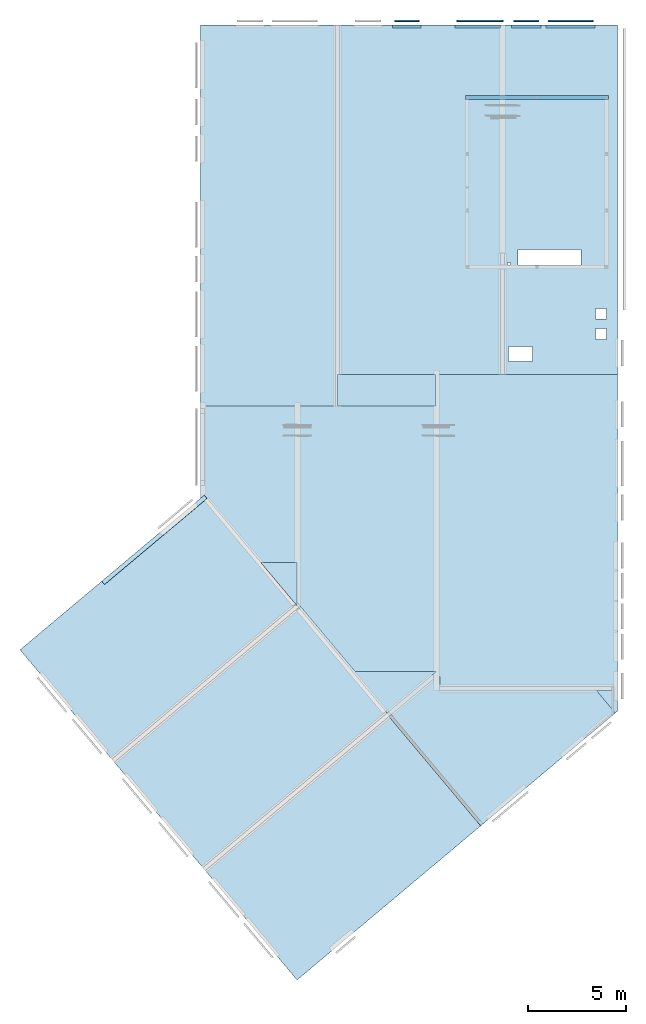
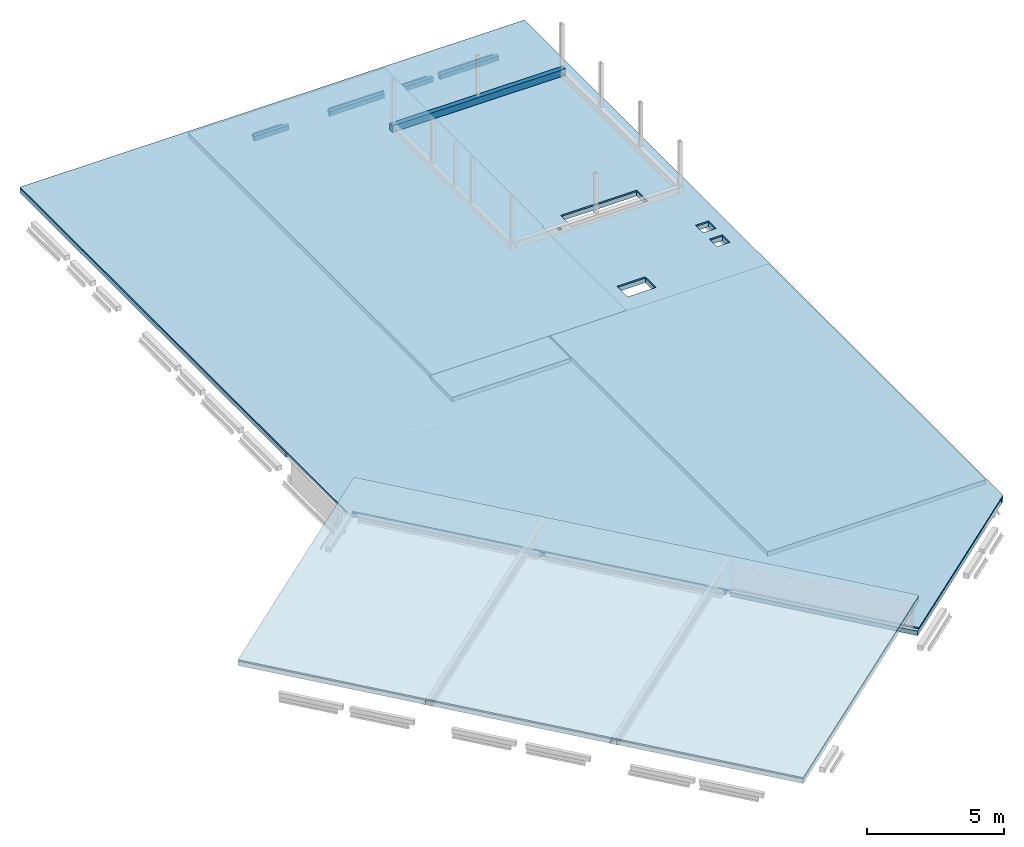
# One storey, part 6 of 9: 16 slabs, 9 beams, 10 openings.
"""IFC2X3 building model written with IfcOpenShell, lengths in millimetres."""

from ifc_helpers import new_model, entity, si_unit, converted_unit, derived_unit, direction, frame, frame_2d, origin, place, context, subcontext, project, spatial, polyline, circle_curve, parameter, trimmed, segment, composite_curve, rectangle, outline, extrude, material, layer, layer_set, layer_usage, type_object, element, save


model = new_model("IFC2X3")

# Units and contexts
model_context = context("Model", 3, precision=0.01, world=origin(), true_north=direction((6.12303176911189e-17, 1.0)))
body_context = subcontext(model_context, "Body", "Model", "MODEL_VIEW")
ifc_project = project(units=[si_unit("LENGTHUNIT", "METRE", prefix="MILLI"), si_unit("AREAUNIT", "SQUARE_METRE"), si_unit("VOLUMEUNIT", "CUBIC_METRE"), converted_unit("PLANEANGLEUNIT", "DEGREE", entity("IfcRatioMeasure", 0.0174532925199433), si_unit("PLANEANGLEUNIT", "RADIAN"), dimensions=[0, 0, 0, 0, 0, 0, 0]), si_unit("MASSUNIT", "GRAM", prefix="KILO"), derived_unit("MASSDENSITYUNIT", [(si_unit("MASSUNIT", "GRAM", prefix="KILO"), 1), (si_unit("LENGTHUNIT", "METRE"), -3)]), derived_unit("MOMENTOFINERTIAUNIT", [(si_unit("LENGTHUNIT", "METRE"), 4)]), si_unit("TIMEUNIT", "SECOND"), si_unit("FREQUENCYUNIT", "HERTZ"), si_unit("THERMODYNAMICTEMPERATUREUNIT", "DEGREE_CELSIUS"), derived_unit("THERMALTRANSMITTANCEUNIT", [(si_unit("MASSUNIT", "GRAM", prefix="KILO"), 1), (si_unit("THERMODYNAMICTEMPERATUREUNIT", "KELVIN"), -1), (si_unit("TIMEUNIT", "SECOND"), -3)]), derived_unit("VOLUMETRICFLOWRATEUNIT", [(si_unit("LENGTHUNIT", "METRE"), 3), (si_unit("TIMEUNIT", "SECOND"), -1)]), si_unit("ELECTRICCURRENTUNIT", "AMPERE"), si_unit("ELECTRICVOLTAGEUNIT", "VOLT"), si_unit("POWERUNIT", "WATT"), si_unit("FORCEUNIT", "NEWTON", prefix="KILO"), si_unit("ILLUMINANCEUNIT", "LUX"), si_unit("LUMINOUSFLUXUNIT", "LUMEN"), si_unit("LUMINOUSINTENSITYUNIT", "CANDELA"), derived_unit("USERDEFINED", [(si_unit("MASSUNIT", "GRAM", prefix="KILO"), -1), (si_unit("LENGTHUNIT", "METRE"), -2), (si_unit("TIMEUNIT", "SECOND"), 3), (si_unit("LUMINOUSFLUXUNIT", "LUMEN"), 1)]), derived_unit("LINEARVELOCITYUNIT", [(si_unit("LENGTHUNIT", "METRE"), 1), (si_unit("TIMEUNIT", "SECOND"), -1)]), si_unit("PRESSUREUNIT", "PASCAL"), derived_unit("USERDEFINED", [(si_unit("LENGTHUNIT", "METRE"), -2), (si_unit("MASSUNIT", "GRAM", prefix="KILO"), 1), (si_unit("TIMEUNIT", "SECOND"), -2)]), derived_unit("LINEARFORCEUNIT", [(si_unit("MASSUNIT", "GRAM", prefix="KILO"), 1), (si_unit("LENGTHUNIT", "METRE"), 1), (si_unit("TIMEUNIT", "SECOND"), -2), (si_unit("LENGTHUNIT", "METRE"), -1)]), derived_unit("PLANARFORCEUNIT", [(si_unit("MASSUNIT", "GRAM", prefix="KILO"), 1), (si_unit("LENGTHUNIT", "METRE"), 1), (si_unit("TIMEUNIT", "SECOND"), -2), (si_unit("LENGTHUNIT", "METRE"), -2)])], contexts=[model_context])

# Site, building, storey
site_placement = place(None, origin())
site = spatial("IfcSite", under=ifc_project, at=site_placement, Name="Default", CompositionType="ELEMENT")
building_placement = place(site_placement, origin())
building = spatial("IfcBuilding", under=site, at=building_placement, CompositionType="ELEMENT")
storey_placement = place(building_placement, frame((0.0, 0.0, 7000.0)))
storey = spatial("IfcBuildingStorey", under=building, at=storey_placement, Name="02 tweede verdieping", CompositionType="ELEMENT", Elevation=7000.00000000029)

# Beams
ifc_material_1 = material(Name="00_Staal_generiek")
beam_type_1 = type_object("IfcBeamType", Name="BERSnl_28_SF_LIB_balk hoeklijn ongelijk_gen_ISR:balk gen l150x100x10", PredefinedType="BEAM")
beam_1_placement = place(storey_placement, frame((23464.6148490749, 35679.6966282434, -60.0)))
element("IfcBeam", 1, at=beam_1_placement, inside=storey, type_object=beam_type_1, material=ifc_material_1, Name="BERSnl_28_SF_LIB_balk hoeklijn ongelijk_gen_ISR:balk gen l150x100x10", ObjectType="BERSnl_28_SF_LIB_balk hoeklijn ongelijk_gen_ISR:balk gen l150x100x10", context=body_context, shape_type="SweptSolid", body=[
    extrude(outline(composite_curve([segment(polyline([(-95.5555555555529, -37.7777777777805), (54.4444444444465, -37.7777777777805)]), True, "CONTINUOUS"), segment(polyline([(54.4444444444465, -37.7777777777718), (54.4444444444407, 62.2222222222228)]), True, "CONTINUOUS"), segment(polyline([(54.4444444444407, 62.2222222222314), (50.4444444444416, 62.2222222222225)]), True, "CONTINUOUS"), segment(trimmed(circle_curve(frame_2d((50.4444444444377, 56.2222222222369), x_axis=(0.0, 1.0)), 5.99999999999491), [parameter(0.0)], [parameter(90.0000000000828)], True, "PARAMETER"), True, "CONTINUOUS"), segment(polyline([(44.4444444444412, 56.2222222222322), (44.4444444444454, -15.7777777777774)]), True, "CONTINUOUS"), segment(trimmed(circle_curve(frame_2d((32.4444444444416, -15.7777777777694), x_axis=(1.0, 0.0)), 12.0000000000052), [parameter(270.000000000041)], [parameter(0.0)], True, "PARAMETER"), False, "CONTINUOUS"), segment(polyline([(32.4444444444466, -27.7777777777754), (-89.5555555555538, -27.7777777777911)]), True, "CONTINUOUS"), segment(trimmed(circle_curve(frame_2d((-89.5555555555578, -33.7777777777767), x_axis=(0.0, 1.0)), 5.99999999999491), [parameter(0.0)], [parameter(90.0000000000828)], True, "PARAMETER"), True, "CONTINUOUS"), segment(polyline([(-95.5555555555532, -33.7777777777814), (-95.5555555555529, -37.7777777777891)]), True, "CONTINUOUS")], self_intersect=False)), frame((12.8201274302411, 14.377777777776, -95.5555555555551), z_axis=(1.0, 0.0, 0.0), x_axis=(0.0, 0.0, -1.0)), (0.0, 0.0, 1.0), 1254.40286472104),
])
beam_2_placement = place(storey_placement, frame((26379.6148490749, 35679.6966282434, -60.0)))
element("IfcBeam", 2, at=beam_2_placement, inside=storey, type_object=beam_type_1, material=ifc_material_1, Name="BERSnl_28_SF_LIB_balk hoeklijn ongelijk_gen_ISR:balk gen l150x100x10", ObjectType="BERSnl_28_SF_LIB_balk hoeklijn ongelijk_gen_ISR:balk gen l150x100x10", context=body_context, shape_type="SweptSolid", body=[
    extrude(outline(composite_curve([segment(polyline([(-95.5555555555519, -37.7777777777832), (54.4444444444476, -37.7777777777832)]), True, "CONTINUOUS"), segment(polyline([(54.4444444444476, -37.7777777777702), (54.4444444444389, 62.22222222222)]), True, "CONTINUOUS"), segment(polyline([(54.4444444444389, 62.222222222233), (50.4444444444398, 62.2222222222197)]), True, "CONTINUOUS"), segment(trimmed(circle_curve(frame_2d((50.4444444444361, 56.2222222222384), x_axis=(0.0, 1.0)), 5.99999999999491), [parameter(0.0)], [parameter(90.0000000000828)], True, "PARAMETER"), True, "CONTINUOUS"), segment(polyline([(44.4444444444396, 56.2222222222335), (44.4444444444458, -15.7777777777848)]), True, "CONTINUOUS"), segment(trimmed(circle_curve(frame_2d((32.444444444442, -15.7777777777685), x_axis=(1.0, 0.0)), 12.0000000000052), [parameter(270.000000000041)], [parameter(0.0)], True, "PARAMETER"), False, "CONTINUOUS"), segment(polyline([(32.4444444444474, -27.7777777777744), (-89.555555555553, -27.777777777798)]), True, "CONTINUOUS"), segment(trimmed(circle_curve(frame_2d((-89.5555555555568, -33.7777777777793), x_axis=(0.0, 1.0)), 5.99999999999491), [parameter(0.0)], [parameter(90.0000000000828)], True, "PARAMETER"), True, "CONTINUOUS"), segment(polyline([(-95.5555555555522, -33.7777777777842), (-95.5555555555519, -37.7777777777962)]), True, "CONTINUOUS")], self_intersect=False)), frame((274.222992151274, 14.3777777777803, -95.5555555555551), z_axis=(1.0, 0.0, 0.0), x_axis=(0.0, 0.0, -1.0)), (0.0, 0.0, 1.0), 2355.59713527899),
])
beam_3_placement = place(storey_placement, frame((29571.8857667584, 35679.6966282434, -60.0)))
element("IfcBeam", 3, at=beam_3_placement, inside=storey, type_object=beam_type_1, material=ifc_material_1, Name="BERSnl_28_SF_LIB_balk hoeklijn ongelijk_gen_ISR:balk gen l150x100x10", ObjectType="BERSnl_28_SF_LIB_balk hoeklijn ongelijk_gen_ISR:balk gen l150x100x10", context=body_context, shape_type="SweptSolid", body=[
    extrude(outline(composite_curve([segment(polyline([(-95.5555555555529, -37.7777777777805), (54.4444444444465, -37.7777777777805)]), True, "CONTINUOUS"), segment(polyline([(54.4444444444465, -37.7777777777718), (54.4444444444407, 62.2222222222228)]), True, "CONTINUOUS"), segment(polyline([(54.4444444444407, 62.2222222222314), (50.4444444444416, 62.2222222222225)]), True, "CONTINUOUS"), segment(trimmed(circle_curve(frame_2d((50.4444444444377, 56.2222222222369), x_axis=(0.0, 1.0)), 5.99999999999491), [parameter(0.0)], [parameter(90.0000000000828)], True, "PARAMETER"), True, "CONTINUOUS"), segment(polyline([(44.4444444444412, 56.2222222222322), (44.4444444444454, -15.7777777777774)]), True, "CONTINUOUS"), segment(trimmed(circle_curve(frame_2d((32.4444444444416, -15.7777777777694), x_axis=(1.0, 0.0)), 12.0000000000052), [parameter(270.000000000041)], [parameter(0.0)], True, "PARAMETER"), False, "CONTINUOUS"), segment(polyline([(32.4444444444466, -27.7777777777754), (-89.5555555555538, -27.7777777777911)]), True, "CONTINUOUS"), segment(trimmed(circle_curve(frame_2d((-89.5555555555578, -33.7777777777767), x_axis=(0.0, 1.0)), 5.99999999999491), [parameter(0.0)], [parameter(90.0000000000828)], True, "PARAMETER"), True, "CONTINUOUS"), segment(polyline([(-95.5555555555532, -33.7777777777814), (-95.5555555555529, -37.7777777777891)]), True, "CONTINUOUS")], self_intersect=False)), frame((-38.0479255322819, 14.3777777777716, -95.5555555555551), z_axis=(1.0, 0.0, 0.0), x_axis=(0.0, 0.0, -1.0)), (0.0, 0.0, 1.0), 1288.00000000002),
])
beam_4_placement = place(storey_placement, frame((31331.8857667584, 35679.6966282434, -60.0)))
element("IfcBeam", 4, at=beam_4_placement, inside=storey, type_object=beam_type_1, material=ifc_material_1, Name="BERSnl_28_SF_LIB_balk hoeklijn ongelijk_gen_ISR:balk gen l150x100x10", ObjectType="BERSnl_28_SF_LIB_balk hoeklijn ongelijk_gen_ISR:balk gen l150x100x10", context=body_context, shape_type="SweptSolid", body=[
    extrude(outline(composite_curve([segment(polyline([(-95.5555555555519, -37.7777777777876), (54.4444444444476, -37.7777777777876)]), True, "CONTINUOUS"), segment(polyline([(54.4444444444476, -37.7777777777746), (54.4444444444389, 62.2222222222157)]), True, "CONTINUOUS"), segment(polyline([(54.4444444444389, 62.2222222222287), (50.4444444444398, 62.2222222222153)]), True, "CONTINUOUS"), segment(trimmed(circle_curve(frame_2d((50.4444444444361, 56.222222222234), x_axis=(0.0, 1.0)), 5.99999999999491), [parameter(0.0)], [parameter(90.0000000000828)], True, "PARAMETER"), True, "CONTINUOUS"), segment(polyline([(44.4444444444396, 56.2222222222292), (44.4444444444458, -15.7777777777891)]), True, "CONTINUOUS"), segment(trimmed(circle_curve(frame_2d((32.444444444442, -15.7777777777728), x_axis=(1.0, 0.0)), 12.0000000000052), [parameter(270.000000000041)], [parameter(0.0)], True, "PARAMETER"), False, "CONTINUOUS"), segment(polyline([(32.4444444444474, -27.7777777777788), (-89.555555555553, -27.7777777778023)]), True, "CONTINUOUS"), segment(trimmed(circle_curve(frame_2d((-89.5555555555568, -33.7777777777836), x_axis=(0.0, 1.0)), 5.99999999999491), [parameter(0.0)], [parameter(90.0000000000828)], True, "PARAMETER"), True, "CONTINUOUS"), segment(polyline([(-95.5555555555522, -33.7777777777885), (-95.5555555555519, -37.7777777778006)]), True, "CONTINUOUS")], self_intersect=False)), frame((-40.719112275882, 14.3777777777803, -95.5555555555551), z_axis=(1.0, 0.0, 0.0), x_axis=(0.0, 0.0, -1.0)), (0.0, 0.0, 1.0), 2288.00000000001),
])
ifc_material_2 = material(Name="f2_beton prefab")
beam_type_2 = type_object("IfcBeamType", Name="BERSnl_28_SF_LIB_balk vierkant prefab_gen_ISR:balk vierkant gen 150x210", PredefinedType="JOIST")
beam_5_placement = place(storey_placement, frame((24707.0442349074, 35420.9488747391, 10.0), z_axis=(0.0, 0.0, 1.0), x_axis=(-1.0, 0.0, 0.0)))
element("IfcBeam", 5, at=beam_5_placement, inside=storey, type_object=beam_type_2, material=ifc_material_2, Name="BERSnl_28_SF_LIB_balk vierkant prefab_gen_ISR:balk vierkant gen 150x210", ObjectType="BERSnl_28_SF_LIB_balk vierkant prefab_gen_ISR:balk vierkant gen 150x210", context=body_context, shape_type="SweptSolid", body=[
    extrude(rectangle(XDim=210.000000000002, YDim=149.999999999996, at=frame_2d((0.0, 2.16715534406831e-12), x_axis=(1.0, 0.0))), frame((-124.793606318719, 0.0, -105.0), z_axis=(1.0, 0.0, 0.0), x_axis=(0.0, 0.0, -1.0)), (0.0, 0.0, 1.0), 1454.40286472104),
])
beam_6_placement = place(storey_placement, frame((27622.0442349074, 35420.9488747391, 10.0), z_axis=(0.0, 0.0, 1.0), x_axis=(-1.0, 0.0, 0.0)))
element("IfcBeam", 6, at=beam_6_placement, inside=storey, type_object=beam_type_2, material=ifc_material_2, Name="BERSnl_28_SF_LIB_balk vierkant prefab_gen_ISR:balk vierkant gen 150x210", ObjectType="BERSnl_28_SF_LIB_balk vierkant prefab_gen_ISR:balk vierkant gen 150x210", context=body_context, shape_type="SweptSolid", body=[
    extrude(rectangle(XDim=210.000000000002, YDim=149.999999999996, at=frame_2d((0.0, 1.08286712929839e-11), x_axis=(1.0, 0.0))), frame((-1237.3907415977, 0.0, -105.0), z_axis=(1.0, 0.0, 0.0), x_axis=(0.0, 0.0, -1.0)), (0.0, 0.0, 1.0), 2305.59713527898),
])
beam_7_placement = place(storey_placement, frame((30814.315152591, 35420.9488747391, 10.0), z_axis=(0.0, 0.0, 1.0), x_axis=(-1.0, 0.0, 0.0)))
element("IfcBeam", 7, at=beam_7_placement, inside=storey, type_object=beam_type_2, material=ifc_material_2, Name="BERSnl_28_SF_LIB_balk vierkant prefab_gen_ISR:balk vierkant gen 150x210", ObjectType="BERSnl_28_SF_LIB_balk vierkant prefab_gen_ISR:balk vierkant gen 150x210", context=body_context, shape_type="SweptSolid", body=[
    extrude(rectangle(XDim=210.000000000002, YDim=149.999999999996, at=frame_2d((0.0, 6.50146603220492e-12), x_axis=(1.0, 0.0))), frame((-107.52268863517, 0.0, -105.0), z_axis=(1.0, 0.0, 0.0), x_axis=(0.0, 0.0, -1.0)), (0.0, 0.0, 1.0), 1488.00000000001),
])
beam_8_placement = place(storey_placement, frame((32574.315152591, 35420.9488747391, 10.0), z_axis=(0.0, 0.0, 1.0), x_axis=(-1.0, 0.0, 0.0)))
element("IfcBeam", 8, at=beam_8_placement, inside=storey, type_object=beam_type_2, material=ifc_material_2, Name="BERSnl_28_SF_LIB_balk vierkant prefab_gen_ISR:balk vierkant gen 150x210", ObjectType="BERSnl_28_SF_LIB_balk vierkant prefab_gen_ISR:balk vierkant gen 150x210", context=body_context, shape_type="SweptSolid", body=[
    extrude(rectangle(XDim=210.000000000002, YDim=149.999999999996, at=frame_2d((0.0, 1.08286712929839e-11), x_axis=(1.0, 0.0))), frame((-1104.85150189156, 0.0, -105.0), z_axis=(1.0, 0.0, 0.0), x_axis=(0.0, 0.0, -1.0)), (0.0, 0.0, 1.0), 2488.00000000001),
])
ifc_material_3 = material(Name="f2_beton ihwg")
beam_type_3 = type_object("IfcBeamType", Name="BERSnl_28_SF_LIB_balk vierkant beton_gen_ISR:balk vierkant_gen200x350", PredefinedType="JOIST")
beam_9_placement = place(storey_placement, frame((27179.4270571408, 31806.2966282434, 1390.0)))
element("IfcBeam", 9, at=beam_9_placement, inside=storey, type_object=beam_type_3, material=ifc_material_3, Name="BERSnl_28_SF_LIB_balk vierkant beton_gen_ISR:balk vierkant_gen200x350", ObjectType="BERSnl_28_SF_LIB_balk vierkant beton_gen_ISR:balk vierkant_gen200x350", context=body_context, shape_type="SweptSolid", body=[
    extrude(rectangle(XDim=290.0, YDim=200.000000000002, at=frame_2d((5.40012479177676e-13, 2.81517031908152e-11), x_axis=(1.0, 0.0))), frame((-100.0, 0.0, -145.0), z_axis=(1.0, 0.0, 0.0), x_axis=(0.0, 0.0, -1.0)), (0.0, 0.0, 1.0), 7289.99999999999),
])

# Slab
ifc_layer_1 = layer(ifc_material_2, 200.0)
ifc_layer_set_1 = layer_set([ifc_layer_1], Name="Floor:BERSnl_23_FL_kanaalplaatvloer 200_gen_ISR")
ifc_layer_usage_1 = layer_usage(ifc_layer_set_1, "AXIS3", "POSITIVE", 0.0)
slab_type_1 = type_object("IfcSlabType", Name="Floor:BERSnl_23_FL_kanaalplaatvloer 200_gen_ISR", PredefinedType="FLOOR", material=ifc_layer_set_1)
slab_1_placement = place(storey_placement, origin())
element("IfcSlab", 10, at=slab_1_placement, inside=storey, type_object=slab_type_1, material=ifc_layer_usage_1, Name="Floor:BERSnl_23_FL_kanaalplaatvloer 200_gen_ISR", ObjectType="Floor:BERSnl_23_FL_kanaalplaatvloer 200_gen_ISR", PredefinedType="FLOOR", context=body_context, shape_type="SweptSolid", body=[
    extrude(rectangle(XDim=19388.6522464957, YDim=6874.00000000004, at=frame_2d((-9.09494701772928e-13, 2.27373675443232e-12), x_axis=(1.0, 0.0))), frame((17032.4349765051, 25801.9705049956, 1040.0), z_axis=(0.0, 0.0, -1.0), x_axis=(0.0, 1.0, 0.0)), (0.0, 0.0, 1.0), 200.0),
])

# Slab, openings
ifc_layer_2 = layer(ifc_material_3, 60.0)
ifc_layer_set_2 = layer_set([ifc_layer_2], Name="Floor:BERSnl_23_FL_druklaag 60")
ifc_layer_usage_2 = layer_usage(ifc_layer_set_2, "AXIS3", "POSITIVE", 0.0)
slab_type_2 = type_object("IfcSlabType", Name="Floor:BERSnl_23_FL_druklaag 60", PredefinedType="FLOOR", material=ifc_layer_set_2)
slab_2_placement = place(storey_placement, frame((13595.4349765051, -5147.2970806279, 1040.0)))
slab_2 = element("IfcSlab", 11, at=slab_2_placement, inside=storey, type_object=slab_type_2, material=ifc_layer_usage_2, Name="Floor:BERSnl_23_FL_druklaag 60", ObjectType="Floor:BERSnl_23_FL_druklaag 60", PredefinedType="FLOOR", context=body_context, shape_type="SweptSolid", body=[
    extrude(outline(polyline([(-10618.9960403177, 20321.7968544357), (-10618.9960403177, -14570.7550179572), (-3765.17127053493, -20321.7968544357), (900.834957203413, -14761.0671694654), (988.930068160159, -14834.9877445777), (10417.9705456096, -3597.89488086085), (10618.9960403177, -3766.57529932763), (10618.9960403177, 20321.7968544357), (-10618.9960403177, 20321.7968544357)])), frame((10618.9960403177, 20321.7968544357, 60.0), z_axis=(0.0, 0.0, -1.0), x_axis=(-1.0, 0.0, 0.0)), (0.0, 0.0, 1.0), 60.0000000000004),
])
opening_1_placement = place(storey_placement, frame((13595.4349765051, -5147.2970806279, 1040.0)))
element("IfcOpeningElement", 12, at=opening_1_placement, cuts=slab_2, ObjectType="Opening", context=body_context, shape_type="SweptSolid", body=[
    extrude(rectangle(XDim=800.000000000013, YDim=3200.0, at=frame_2d((-7155.0039596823, 8506.79685443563), x_axis=(0.0, -1.0))), frame((10618.9960403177, 20321.7968544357, 60.0), z_axis=(0.0, 0.0, -1.0), x_axis=(-1.0, 0.0, 0.0)), (0.0, 0.0, 1.0), 60.0000000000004),
])
opening_2_placement = place(storey_placement, frame((13595.4349765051, -5147.2970806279, 1040.0)))
element("IfcOpeningElement", 13, at=opening_2_placement, cuts=slab_2, ObjectType="Opening", context=body_context, shape_type="SweptSolid", body=[
    extrude(rectangle(XDim=150.0, YDim=149.429204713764, at=frame_2d((-5084.71856203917, 8181.79685443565), x_axis=(0.0, 1.0))), frame((10618.9960403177, 20321.7968544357, 60.0), z_axis=(0.0, 0.0, -1.0), x_axis=(-1.0, 0.0, 0.0)), (0.0, 0.0, 1.0), 60.0000000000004),
])
opening_3_placement = place(storey_placement, frame((13595.4349765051, -5147.2970806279, 1040.0)))
element("IfcOpeningElement", 14, at=opening_3_placement, cuts=slab_2, ObjectType="Opening", context=body_context, shape_type="SweptSolid", body=[
    extrude(rectangle(XDim=550.000000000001, YDim=550.000000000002, at=frame_2d((-9768.99604031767, 5633.79685443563), x_axis=(0.0, 1.0))), frame((10618.9960403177, 20321.7968544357, 60.0), z_axis=(0.0, 0.0, -1.0), x_axis=(-1.0, 0.0, 0.0)), (0.0, 0.0, 1.0), 60.0000000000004),
])
opening_4_placement = place(storey_placement, frame((13595.4349765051, -5147.2970806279, 1040.0)))
element("IfcOpeningElement", 15, at=opening_4_placement, cuts=slab_2, ObjectType="Opening", context=body_context, shape_type="SweptSolid", body=[
    extrude(rectangle(XDim=550.000000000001, YDim=550.000000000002, at=frame_2d((-9768.99604031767, 4613.79685443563), x_axis=(0.0, 1.0))), frame((10618.9960403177, 20321.7968544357, 60.0), z_axis=(0.0, 0.0, -1.0), x_axis=(-1.0, 0.0, 0.0)), (0.0, 0.0, 1.0), 60.0000000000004),
])
opening_5_placement = place(storey_placement, frame((13595.4349765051, -5147.2970806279, 1040.0)))
element("IfcOpeningElement", 16, at=opening_5_placement, cuts=slab_2, ObjectType="Opening", context=body_context, shape_type="SweptSolid", body=[
    extrude(rectangle(XDim=776.114000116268, YDim=1200.0, at=frame_2d((-5672.00395968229, 3590.73985437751), x_axis=(0.0, -1.0))), frame((10618.9960403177, 20321.7968544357, 60.0), z_axis=(0.0, 0.0, -1.0), x_axis=(-1.0, 0.0, 0.0)), (0.0, 0.0, 1.0), 60.0000000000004),
])

# Slabs
ifc_layer_usage_3 = layer_usage(ifc_layer_set_1, "AXIS3", "POSITIVE", 0.0)
slab_type_3 = type_object("IfcSlabType", Name="Floor:BERSnl_23_FL_kanaalplaatvloer 200_gen_ISR", PredefinedType="FLOOR", material=ifc_layer_set_1)
slab_3_placement = place(storey_placement, origin())
element("IfcSlab", 17, at=slab_3_placement, inside=storey, type_object=slab_type_3, material=ifc_layer_usage_3, Name="Floor:BERSnl_23_FL_kanaalplaatvloer 200_gen_ISR", ObjectType="Floor:BERSnl_23_FL_kanaalplaatvloer 200_gen_ISR", PredefinedType="FLOOR", context=body_context, shape_type="SweptSolid", body=[
    extrude(outline(polyline([(-438.180045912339, -2465.55524071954), (4091.28955238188, -2465.55524071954), (4091.28955238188, 2257.59062004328), (-3872.19952942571, 2257.59062004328), (-3872.19952942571, 415.929241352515), (-438.180045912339, -2465.55524071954)])), frame((16260.9902172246, 12016.0070758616, 1040.0), z_axis=(0.0, 0.0, -1.0), x_axis=(0.0, 1.0, 0.0)), (0.0, 0.0, 1.0), 200.0),
])
ifc_layer_usage_4 = layer_usage(ifc_layer_set_1, "AXIS3", "POSITIVE", 0.0)
slab_type_4 = type_object("IfcSlabType", Name="Floor:BERSnl_23_FL_kanaalplaatvloer 200_gen_ISR", PredefinedType="FLOOR", material=ifc_layer_set_1)
slab_4_placement = place(storey_placement, origin())
element("IfcSlab", 18, at=slab_4_placement, inside=storey, type_object=slab_type_4, material=ifc_layer_usage_4, Name="Floor:BERSnl_23_FL_kanaalplaatvloer 200_gen_ISR", ObjectType="Floor:BERSnl_23_FL_kanaalplaatvloer 200_gen_ISR", PredefinedType="FLOOR", context=body_context, shape_type="SweptSolid", body=[
    extrude(outline(polyline([(-7982.91341918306, -5491.66666666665), (9793.45670959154, -5491.66666666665), (9793.45670959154, 2783.33333333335), (-1810.54329040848, 2783.33333333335), (-1810.54329040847, 2708.33333333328), (-7982.91341918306, 2708.33333333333), (-7982.91341918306, -5491.66666666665)])), frame((26161.1016431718, 25702.8399186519, 1040.0), z_axis=(0.0, 0.0, -1.0), x_axis=(0.0, 1.0, 0.0)), (0.0, 0.0, 1.0), 200.0),
])

# Slab, openings
ifc_layer_usage_5 = layer_usage(ifc_layer_set_1, "AXIS3", "POSITIVE", 0.0)
slab_type_5 = type_object("IfcSlabType", Name="Floor:BERSnl_23_FL_kanaalplaatvloer 200_gen_ISR", PredefinedType="FLOOR", material=ifc_layer_set_1)
slab_5_placement = place(storey_placement, frame((29000.9349765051, 17719.9264994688, 840.0)))
slab_5 = element("IfcSlab", 19, at=slab_5_placement, inside=storey, type_object=slab_type_5, material=ifc_layer_usage_5, Name="Floor:BERSnl_23_FL_kanaalplaatvloer 200_gen_ISR", ObjectType="Floor:BERSnl_23_FL_kanaalplaatvloer 200_gen_ISR", PredefinedType="FLOOR", context=body_context, shape_type="SweptSolid", body=[
    extrude(rectangle(XDim=17776.3701287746, YDim=5832.49208063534, at=frame_2d((0.0, 0.0), x_axis=(0.0, -1.0))), frame((2916.24604031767, 8888.1850643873, 200.0), z_axis=(0.0, 0.0, -1.0), x_axis=(-1.0, 0.0, 0.0)), (0.0, 0.0, 1.0), 200.0),
])
opening_6_placement = place(storey_placement, frame((29000.9349765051, 17719.9264994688, 840.0)))
element("IfcOpeningElement", 20, at=opening_6_placement, cuts=slab_5, ObjectType="Opening", context=body_context, shape_type="SweptSolid", body=[
    extrude(rectangle(XDim=800.000000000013, YDim=3200.0, at=frame_2d((547.7460403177, -2926.81493561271), x_axis=(0.0, -1.0))), frame((2916.24604031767, 8888.1850643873, 200.0), z_axis=(0.0, 0.0, -1.0), x_axis=(-1.0, 0.0, 0.0)), (0.0, 0.0, 1.0), 200.0),
])
opening_7_placement = place(storey_placement, frame((29000.9349765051, 17719.9264994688, 840.0)))
element("IfcOpeningElement", 21, at=opening_7_placement, cuts=slab_5, ObjectType="Opening", context=body_context, shape_type="SweptSolid", body=[
    extrude(rectangle(XDim=150.0, YDim=149.429204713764, at=frame_2d((2618.03143796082, -3251.81493561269), x_axis=(0.0, 1.0))), frame((2916.24604031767, 8888.1850643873, 200.0), z_axis=(0.0, 0.0, -1.0), x_axis=(-1.0, 0.0, 0.0)), (0.0, 0.0, 1.0), 200.0),
])
opening_8_placement = place(storey_placement, frame((29000.9349765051, 17719.9264994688, 840.0)))
element("IfcOpeningElement", 22, at=opening_8_placement, cuts=slab_5, ObjectType="Opening", context=body_context, shape_type="SweptSolid", body=[
    extrude(rectangle(XDim=550.000000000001, YDim=550.0, at=frame_2d((-2066.24604031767, -5799.81493561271), x_axis=(0.0, 1.0))), frame((2916.24604031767, 8888.1850643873, 200.0), z_axis=(0.0, 0.0, -1.0), x_axis=(-1.0, 0.0, 0.0)), (0.0, 0.0, 1.0), 200.0),
])
opening_9_placement = place(storey_placement, frame((29000.9349765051, 17719.9264994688, 840.0)))
element("IfcOpeningElement", 23, at=opening_9_placement, cuts=slab_5, ObjectType="Opening", context=body_context, shape_type="SweptSolid", body=[
    extrude(rectangle(XDim=550.000000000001, YDim=550.0, at=frame_2d((-2066.24604031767, -6819.81493561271), x_axis=(0.0, 1.0))), frame((2916.24604031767, 8888.1850643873, 200.0), z_axis=(0.0, 0.0, -1.0), x_axis=(-1.0, 0.0, 0.0)), (0.0, 0.0, 1.0), 200.0),
])
opening_10_placement = place(storey_placement, frame((29000.9349765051, 17719.9264994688, 840.0)))
element("IfcOpeningElement", 24, at=opening_10_placement, cuts=slab_5, ObjectType="Opening", context=body_context, shape_type="SweptSolid", body=[
    extrude(rectangle(XDim=776.114000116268, YDim=1200.0, at=frame_2d((2030.74604031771, -7842.87193567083), x_axis=(0.0, -1.0))), frame((2916.24604031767, 8888.1850643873, 200.0), z_axis=(0.0, 0.0, -1.0), x_axis=(-1.0, 0.0, 0.0)), (0.0, 0.0, 1.0), 200.0),
])

# Slabs
ifc_layer_usage_6 = layer_usage(ifc_layer_set_1, "AXIS3", "POSITIVE", 0.0)
slab_type_6 = type_object("IfcSlabType", Name="Floor:BERSnl_23_FL_kanaalplaatvloer 200_gen_ISR", PredefinedType="FLOOR", material=ifc_layer_set_1)
slab_6_placement = place(storey_placement, origin())
element("IfcSlab", 25, at=slab_6_placement, inside=storey, type_object=slab_type_6, material=ifc_layer_usage_6, Name="Floor:BERSnl_23_FL_kanaalplaatvloer 200_gen_ISR", ObjectType="Floor:BERSnl_23_FL_kanaalplaatvloer 200_gen_ISR", PredefinedType="FLOOR", context=body_context, shape_type="SweptSolid", body=[
    extrude(rectangle(XDim=15867.629871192, YDim=9186.9188364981, at=frame_2d((0.0, -4.09272615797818e-12), x_axis=(1.0, 0.0))), frame((30239.9676388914, 9786.11156387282, 1040.0), z_axis=(0.0, 0.0, -1.0), x_axis=(0.0, 1.0, 0.0)), (0.0, 0.0, 1.0), 200.0),
])
ifc_layer_usage_7 = layer_usage(ifc_layer_set_1, "AXIS3", "POSITIVE", 0.0)
slab_type_7 = type_object("IfcSlabType", Name="Floor:BERSnl_23_FL_kanaalplaatvloer 200_gen_ISR", PredefinedType="FLOOR", material=ifc_layer_set_1)
slab_7_placement = place(storey_placement, origin())
element("IfcSlab", 26, at=slab_7_placement, inside=storey, type_object=slab_type_7, material=ifc_layer_usage_7, Name="Floor:BERSnl_23_FL_kanaalplaatvloer 200_gen_ISR", ObjectType="Floor:BERSnl_23_FL_kanaalplaatvloer 200_gen_ISR", PredefinedType="FLOOR", context=body_context, shape_type="SweptSolid", body=[
    extrude(rectangle(XDim=1612.6298712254, YDim=4987.71645893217, at=frame_2d((1.08002495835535e-12, -2.27373675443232e-12), x_axis=(1.0, 0.0))), frame((23081.4311099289, 16913.6115638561, 1040.0), z_axis=(0.0, 0.0, -1.0), x_axis=(0.0, 1.0, 0.0)), (0.0, 0.0, 1.0), 200.0),
])
ifc_layer_3 = layer(ifc_material_3, 200.0)
ifc_layer_set_3 = layer_set([ifc_layer_3], Name="Floor:BERSnl_23_FL_gewapend beton 200_gen_ISR")
ifc_layer_usage_8 = layer_usage(ifc_layer_set_3, "AXIS3", "POSITIVE", 0.0)
slab_type_8 = type_object("IfcSlabType", Name="Floor:BERSnl_23_FL_gewapend beton 200_gen_ISR", PredefinedType="FLOOR", material=ifc_layer_set_3)
slab_8_placement = place(storey_placement, origin())
element("IfcSlab", 27, at=slab_8_placement, inside=storey, type_object=slab_type_8, material=ifc_layer_usage_8, Name="Floor:BERSnl_23_FL_gewapend beton 200_gen_ISR", ObjectType="Floor:BERSnl_23_FL_gewapend beton 200_gen_ISR", PredefinedType="FLOOR", context=body_context, shape_type="SweptSolid", body=[
    extrude(outline(polyline([(-550.364836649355, -304.034140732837), (498.187035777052, -304.034140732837), (602.542637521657, -179.667977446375), (-550.364836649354, 787.736258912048), (-550.364836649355, -304.034140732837)])), frame((34529.3929164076, 1101.93179162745, 1040.0), z_axis=(0.0, 0.0, -1.0), x_axis=(0.0, -1.0, 0.0)), (0.0, 0.0, 1.0), 200.0),
])
ifc_layer_usage_9 = layer_usage(ifc_layer_set_1, "AXIS3", "POSITIVE", 0.0)
slab_type_9 = type_object("IfcSlabType", Name="Floor:BERSnl_23_FL_kanaalplaatvloer 200_gen_ISR", PredefinedType="FLOOR", material=ifc_layer_set_1)
slab_9_placement = place(storey_placement, origin())
element("IfcSlab", 28, at=slab_9_placement, inside=storey, type_object=slab_type_9, material=ifc_layer_usage_9, Name="Floor:BERSnl_23_FL_kanaalplaatvloer 200_gen_ISR", ObjectType="Floor:BERSnl_23_FL_kanaalplaatvloer 200_gen_ISR", PredefinedType="FLOOR", context=body_context, shape_type="SweptSolid", body=[
    extrude(outline(polyline([(-2467.1617941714, -1847.59718046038), (-2316.58523126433, -1847.59718046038), (-2316.58523126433, -1137.84722414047), (5638.1660436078, -1137.84722414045), (6605.57027996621, 15.0602500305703), (-238.794992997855, 5758.16462621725), (-4904.60907387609, 197.663932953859), (-2467.1617941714, -1847.59718046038)])), frame((28103.4906138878, 514.449404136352, 1040.0), z_axis=(0.0, 0.0, -1.0), x_axis=(1.0, 0.0, 0.0)), (0.0, 0.0, 1.0), 200.0),
])
ifc_layer_usage_10 = layer_usage(ifc_layer_set_1, "AXIS3", "POSITIVE", 0.0)
slab_type_10 = type_object("IfcSlabType", Name="Floor:BERSnl_23_FL_kanaalplaatvloer 200_gen_ISR", PredefinedType="FLOOR", material=ifc_layer_set_1)
slab_10_placement = place(storey_placement, origin())
element("IfcSlab", 29, at=slab_10_placement, inside=storey, type_object=slab_type_10, material=ifc_layer_usage_10, Name="Floor:BERSnl_23_FL_kanaalplaatvloer 200_gen_ISR", ObjectType="Floor:BERSnl_23_FL_kanaalplaatvloer 200_gen_ISR", PredefinedType="FLOOR", context=body_context, shape_type="SweptSolid", body=[
    extrude(rectangle(XDim=7263.6991108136, YDim=12350.0000661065, at=frame_2d((-1.13686837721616e-12, -4.54747350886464e-13), x_axis=(1.0, 0.0))), frame((20914.7699313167, -6334.35242152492, 2490.0), z_axis=(0.0, 0.0, -1.0), x_axis=(0.642787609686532, -0.766044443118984, 0.0)), (0.0, 0.0, 1.0), 200.0),
])
ifc_layer_usage_11 = layer_usage(ifc_layer_set_2, "AXIS3", "POSITIVE", 0.0)
slab_type_11 = type_object("IfcSlabType", Name="Floor:BERSnl_23_FL_druklaag 60", PredefinedType="FLOOR", material=ifc_layer_set_2)
slab_11_placement = place(storey_placement, origin())
element("IfcSlab", 30, at=slab_11_placement, inside=storey, type_object=slab_type_11, material=ifc_layer_usage_11, Name="Floor:BERSnl_23_FL_druklaag 60", ObjectType="Floor:BERSnl_23_FL_druklaag 60", PredefinedType="FLOOR", context=body_context, shape_type="SweptSolid", body=[
    extrude(rectangle(XDim=21927.9880236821, YDim=12350.000066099, at=frame_2d((-2.72848410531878e-12, 1.8644641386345e-09), x_axis=(1.0, 0.0))), frame((16201.7583222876, -717.603904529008, 2550.0), z_axis=(0.0, 0.0, -1.0), x_axis=(0.642787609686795, -0.766044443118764, 0.0)), (0.0, 0.0, 1.0), 60.0000000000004),
])
ifc_layer_usage_12 = layer_usage(ifc_layer_set_1, "AXIS3", "POSITIVE", 0.0)
slab_type_12 = type_object("IfcSlabType", Name="Floor:BERSnl_23_FL_kanaalplaatvloer 200_gen_ISR", PredefinedType="FLOOR", material=ifc_layer_set_1)
slab_12_placement = place(storey_placement, origin())
element("IfcSlab", 31, at=slab_12_placement, inside=storey, type_object=slab_type_12, material=ifc_layer_usage_12, Name="Floor:BERSnl_23_FL_kanaalplaatvloer 200_gen_ISR", ObjectType="Floor:BERSnl_23_FL_kanaalplaatvloer 200_gen_ISR", PredefinedType="FLOOR", context=body_context, shape_type="SweptSolid", body=[
    extrude(rectangle(XDim=6997.49999999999, YDim=12350.0, at=frame_2d((-1.05796971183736e-09, 9.09494701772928e-13), x_axis=(1.0, 0.0))), frame((16201.2187630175, -716.417072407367, 2490.0), z_axis=(0.0, 0.0, -1.0), x_axis=(0.642787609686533, -0.766044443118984, 0.0)), (0.0, 0.0, 1.0), 200.0),
])
ifc_layer_usage_13 = layer_usage(ifc_layer_set_3, "AXIS3", "POSITIVE", 0.0)
slab_type_13 = type_object("IfcSlabType", Name="Floor:BERSnl_23_FL_gewapend beton 200_gen_ISR", PredefinedType="FLOOR", material=ifc_layer_set_3)
slab_13_placement = place(storey_placement, origin())
element("IfcSlab", 32, at=slab_13_placement, inside=storey, type_object=slab_type_13, material=ifc_layer_usage_13, Name="Floor:BERSnl_23_FL_gewapend beton 200_gen_ISR", ObjectType="Floor:BERSnl_23_FL_gewapend beton 200_gen_ISR", PredefinedType="FLOOR", context=body_context, shape_type="SweptSolid", body=[
    extrude(outline(polyline([(-2018.95462456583, -703.480066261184), (2267.03965671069, -703.480066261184), (-248.085032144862, 1406.96013252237), (-2018.95462456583, -703.480066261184)])), frame((23342.260236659, 1903.47021317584, 1040.0), z_axis=(0.0, 0.0, -1.0), x_axis=(1.0, 0.0, 0.0)), (0.0, 0.0, 1.0), 200.0),
])
ifc_layer_usage_14 = layer_usage(ifc_layer_set_1, "AXIS3", "POSITIVE", 0.0)
slab_type_14 = type_object("IfcSlabType", Name="Floor:BERSnl_23_FL_kanaalplaatvloer 200_gen_ISR", PredefinedType="FLOOR", material=ifc_layer_set_1)
slab_14_placement = place(storey_placement, origin())
element("IfcSlab", 33, at=slab_14_placement, inside=storey, type_object=slab_type_14, material=ifc_layer_usage_14, Name="Floor:BERSnl_23_FL_kanaalplaatvloer 200_gen_ISR", ObjectType="Floor:BERSnl_23_FL_kanaalplaatvloer 200_gen_ISR", PredefinedType="FLOOR", context=body_context, shape_type="SweptSolid", body=[
    extrude(outline(polyline([(-2768.55126048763, -3360.04097881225), (7442.3109895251, -3360.04097881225), (7442.31098952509, 3659.95902118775), (-6058.03535928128, 3659.95902118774), (-6058.03535928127, -599.836084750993), (-2768.55126048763, -3360.04097881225)])), frame((21923.1416968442, 8664.98563871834, 1040.0), z_axis=(0.0, 0.0, -1.0), x_axis=(0.0, 1.0, 0.0)), (0.0, 0.0, 1.0), 200.0),
])
ifc_layer_usage_15 = layer_usage(ifc_layer_set_1, "AXIS3", "POSITIVE", 0.0)
slab_type_15 = type_object("IfcSlabType", Name="Floor:BERSnl_23_FL_kanaalplaatvloer 200_gen_ISR", PredefinedType="FLOOR", material=ifc_layer_set_1)
slab_15_placement = place(storey_placement, origin())
element("IfcSlab", 34, at=slab_15_placement, inside=storey, type_object=slab_type_15, material=ifc_layer_usage_15, Name="Floor:BERSnl_23_FL_kanaalplaatvloer 200_gen_ISR", ObjectType="Floor:BERSnl_23_FL_kanaalplaatvloer 200_gen_ISR", PredefinedType="FLOOR", context=body_context, shape_type="SweptSolid", body=[
    extrude(outline(polyline([(-2274.66267455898, -6421.66668870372), (4769.32534911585, -6421.66668870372), (4769.32534912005, 5928.3333774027), (-2494.66267455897, 5928.33337740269), (-2494.66267455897, 493.333311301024), (-2274.66267455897, 493.333311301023), (-2274.66267455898, -6421.66668870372)])), frame((10568.8194554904, 5611.72603335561, 2490.0), z_axis=(0.0, 0.0, -1.0), x_axis=(0.642787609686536, -0.766044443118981, 0.0)), (0.0, 0.0, 1.0), 200.0),
])
ifc_layer_usage_16 = layer_usage(ifc_layer_set_3, "AXIS3", "POSITIVE", 0.0)
slab_type_16 = type_object("IfcSlabType", Name="Floor:BERSnl_23_FL_gewapend beton 200_gen_ISR", PredefinedType="FLOOR", material=ifc_layer_set_3)
slab_16_placement = place(storey_placement, origin())
element("IfcSlab", 35, at=slab_16_placement, inside=storey, type_object=slab_type_16, material=ifc_layer_usage_16, Name="Floor:BERSnl_23_FL_gewapend beton 200_gen_ISR", ObjectType="Floor:BERSnl_23_FL_gewapend beton 200_gen_ISR", PredefinedType="FLOOR", context=body_context, shape_type="SweptSolid", body=[
    extrude(outline(polyline([(-731.302746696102, -613.635865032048), (1462.6054933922, -613.635865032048), (-731.302746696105, 1227.2717300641), (-731.302746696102, -613.635865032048)])), frame((17904.1911886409, 7412.50479973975, 1040.0), z_axis=(0.0, 0.0, -1.0), x_axis=(0.0, -1.0, 0.0)), (0.0, 0.0, 1.0), 200.0),
])

save(model, "model.ifc")
